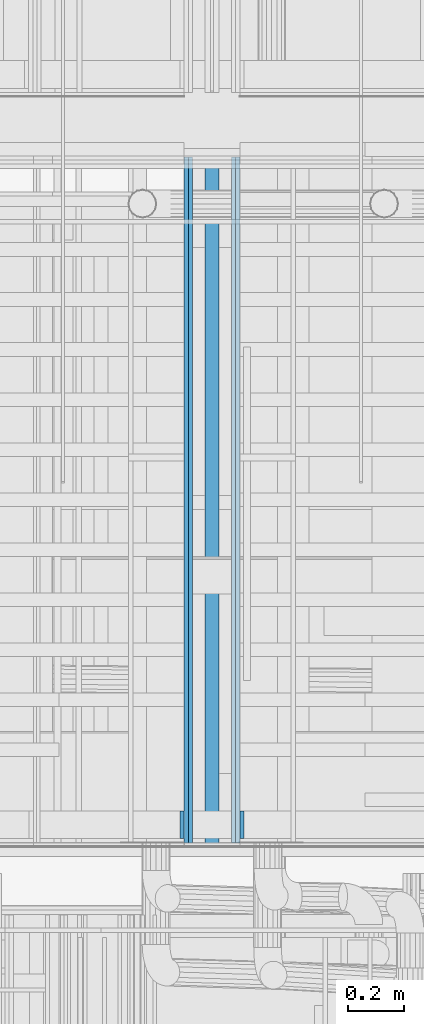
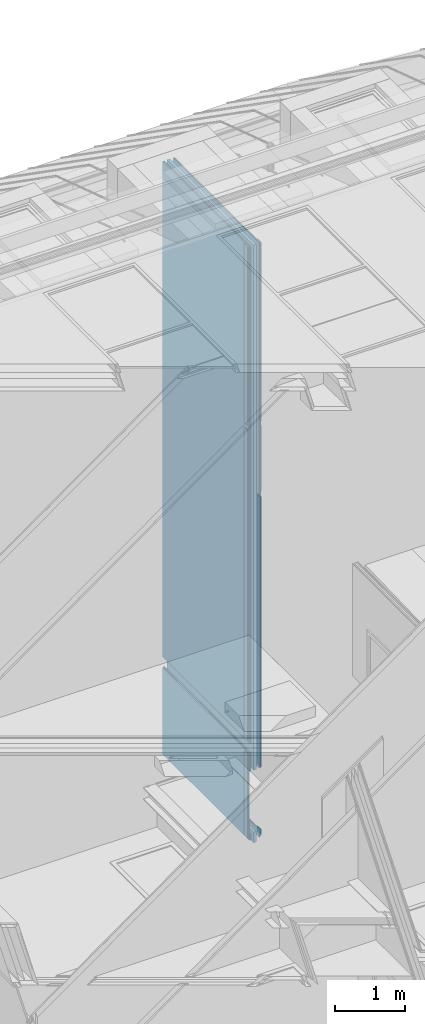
# One storey, part 147 of 583: 14 building element parts, 1 opening, 1 element without a shape of its own.
"""IFC2X3 building model written with IfcOpenShell, lengths in metres."""

from ifc_helpers import new_model, entity, si_unit, converted_unit, derived_unit, money_unit, direction, frame, frame_2d, origin_with_axes, place, context, subcontext, project, spatial, polyline, rectangle, outline, extrude, material, type_object, element, aggregate, save


model = new_model("IFC2X3")

# Units and contexts
model_context = context("Model", 3, precision=1e-05, world=origin_with_axes(), true_north=direction((0.0, 1.0)))
body_context = subcontext(model_context, "Body", "Model", "MODEL_VIEW", scale=1.0)
ifc_project = project(units=[si_unit("LENGTHUNIT", "METRE"), si_unit("AREAUNIT", "SQUARE_METRE"), si_unit("VOLUMEUNIT", "CUBIC_METRE"), si_unit("ABSORBEDDOSEUNIT", "GRAY"), si_unit("AMOUNTOFSUBSTANCEUNIT", "MOLE"), si_unit("DOSEEQUIVALENTUNIT", "SIEVERT"), si_unit("ELECTRICCAPACITANCEUNIT", "FARAD"), si_unit("ELECTRICCHARGEUNIT", "COULOMB"), si_unit("ELECTRICCONDUCTANCEUNIT", "SIEMENS"), si_unit("ELECTRICCURRENTUNIT", "AMPERE"), si_unit("ELECTRICRESISTANCEUNIT", "OHM"), si_unit("ELECTRICVOLTAGEUNIT", "VOLT"), si_unit("ENERGYUNIT", "JOULE"), si_unit("FORCEUNIT", "NEWTON"), si_unit("FREQUENCYUNIT", "HERTZ"), si_unit("ILLUMINANCEUNIT", "LUX"), si_unit("INDUCTANCEUNIT", "HENRY"), si_unit("LUMINOUSFLUXUNIT", "LUMEN"), si_unit("LUMINOUSINTENSITYUNIT", "CANDELA"), si_unit("MAGNETICFLUXDENSITYUNIT", "TESLA"), si_unit("MAGNETICFLUXUNIT", "WEBER"), si_unit("MASSUNIT", "GRAM"), converted_unit("PLANEANGLEUNIT", "degree", entity("IfcReal", 0.0174532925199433), si_unit("PLANEANGLEUNIT", "RADIAN"), dimensions=[0, 0, 0, 0, 0, 0, 0]), si_unit("POWERUNIT", "WATT"), si_unit("PRESSUREUNIT", "PASCAL"), si_unit("RADIOACTIVITYUNIT", "BECQUEREL"), si_unit("SOLIDANGLEUNIT", "STERADIAN"), si_unit("THERMODYNAMICTEMPERATUREUNIT", "KELVIN"), si_unit("TIMEUNIT", "SECOND"), derived_unit("ACCELERATIONUNIT", [(si_unit("LENGTHUNIT", "METRE"), 1), (si_unit("TIMEUNIT", "SECOND"), -2)]), derived_unit("ANGULARVELOCITYUNIT", [(converted_unit("PLANEANGLEUNIT", "degree", entity("IfcReal", 0.0174532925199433), si_unit("PLANEANGLEUNIT", "RADIAN"), dimensions=[0, 0, 0, 0, 0, 0, 0]), 1), (si_unit("TIMEUNIT", "SECOND"), -1)]), derived_unit("CURVATUREUNIT", [(converted_unit("PLANEANGLEUNIT", "degree", entity("IfcReal", 0.0174532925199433), si_unit("PLANEANGLEUNIT", "RADIAN"), dimensions=[0, 0, 0, 0, 0, 0, 0]), 1), (si_unit("LENGTHUNIT", "METRE"), -1)]), derived_unit("DYNAMICVISCOSITYUNIT", [(si_unit("PRESSUREUNIT", "PASCAL"), 1), (si_unit("TIMEUNIT", "SECOND"), 1)]), derived_unit("HEATFLUXDENSITYUNIT", [(si_unit("POWERUNIT", "WATT"), 1), (si_unit("LENGTHUNIT", "METRE"), -2)]), derived_unit("HEATINGVALUEUNIT", [(si_unit("ENERGYUNIT", "JOULE"), 1), (si_unit("MASSUNIT", "GRAM"), -1)]), derived_unit("INTEGERCOUNTRATEUNIT", [(si_unit("TIMEUNIT", "SECOND"), -1)]), derived_unit("IONCONCENTRATIONUNIT", [(si_unit("MASSUNIT", "GRAM"), 1), (si_unit("VOLUMEUNIT", "CUBIC_METRE"), -1)]), derived_unit("ISOTHERMALMOISTURECAPACITYUNIT", [(si_unit("VOLUMEUNIT", "CUBIC_METRE"), 1), (si_unit("MASSUNIT", "GRAM"), -1)]), derived_unit("KINEMATICVISCOSITYUNIT", [(si_unit("AREAUNIT", "SQUARE_METRE"), 1), (si_unit("TIMEUNIT", "SECOND"), -1)]), derived_unit("LINEARFORCEUNIT", [(si_unit("FORCEUNIT", "NEWTON"), 1), (si_unit("LENGTHUNIT", "METRE"), -1)]), derived_unit("LINEARMOMENTUNIT", [(si_unit("FORCEUNIT", "NEWTON"), 1), (si_unit("LENGTHUNIT", "METRE"), -1)]), derived_unit("LINEARSTIFFNESSUNIT", [(si_unit("FORCEUNIT", "NEWTON"), 1), (si_unit("LENGTHUNIT", "METRE"), -1)]), derived_unit("LINEARVELOCITYUNIT", [(si_unit("LENGTHUNIT", "METRE"), 1), (si_unit("TIMEUNIT", "SECOND"), -1)]), derived_unit("LUMINOUSINTENSITYDISTRIBUTIONUNIT", [(si_unit("LUMINOUSINTENSITYUNIT", "CANDELA"), 1), (si_unit("LUMINOUSFLUXUNIT", "LUMEN"), -1)]), derived_unit("MASSDENSITYUNIT", [(si_unit("MASSUNIT", "GRAM"), 1), (si_unit("VOLUMEUNIT", "CUBIC_METRE"), -1)]), derived_unit("MASSFLOWRATEUNIT", [(si_unit("MASSUNIT", "GRAM"), 1), (si_unit("TIMEUNIT", "SECOND"), -1)]), derived_unit("MASSPERLENGTHUNIT", [(si_unit("MASSUNIT", "GRAM"), 1), (si_unit("LENGTHUNIT", "METRE"), -1)]), derived_unit("MODULUSOFELASTICITYUNIT", [(si_unit("FORCEUNIT", "NEWTON"), 1), (si_unit("AREAUNIT", "SQUARE_METRE"), -1)]), derived_unit("MODULUSOFLINEARSUBGRADEREACTIONUNIT", [(si_unit("FORCEUNIT", "NEWTON"), 1), (si_unit("LENGTHUNIT", "METRE"), -2)]), derived_unit("MODULUSOFROTATIONALSUBGRADEREACTIONUNIT", [(si_unit("FORCEUNIT", "NEWTON"), 1), (si_unit("LENGTHUNIT", "METRE"), 1)]), derived_unit("MODULUSOFSUBGRADEREACTIONUNIT", [(si_unit("FORCEUNIT", "NEWTON"), 1), (si_unit("VOLUMEUNIT", "CUBIC_METRE"), -1)]), derived_unit("MOISTUREDIFFUSIVITYUNIT", [(si_unit("VOLUMEUNIT", "CUBIC_METRE"), 1), (si_unit("TIMEUNIT", "SECOND"), -1)]), derived_unit("MOLECULARWEIGHTUNIT", [(si_unit("MASSUNIT", "GRAM"), 1), (si_unit("AMOUNTOFSUBSTANCEUNIT", "MOLE"), -1)]), derived_unit("PLANARFORCEUNIT", [(si_unit("FORCEUNIT", "NEWTON"), 1), (si_unit("LENGTHUNIT", "METRE"), -2)]), derived_unit("ROTATIONALFREQUENCYUNIT", [(si_unit("TIMEUNIT", "SECOND"), -1)]), derived_unit("ROTATIONALMASSUNIT", [(si_unit("MASSUNIT", "GRAM"), 1), (si_unit("LENGTHUNIT", "METRE"), 2)]), derived_unit("ROTATIONALSTIFFNESSUNIT", [(si_unit("FORCEUNIT", "NEWTON"), 1), (si_unit("LENGTHUNIT", "METRE"), 1), (converted_unit("PLANEANGLEUNIT", "degree", entity("IfcReal", 0.0174532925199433), si_unit("PLANEANGLEUNIT", "RADIAN"), dimensions=[0, 0, 0, 0, 0, 0, 0]), -1)]), derived_unit("SECTIONAREAINTEGRALUNIT", [(si_unit("LENGTHUNIT", "METRE"), 5)]), derived_unit("SECTIONMODULUSUNIT", [(si_unit("LENGTHUNIT", "METRE"), 3)]), derived_unit("SHEARMODULUSUNIT", [(si_unit("FORCEUNIT", "NEWTON"), 1), (si_unit("AREAUNIT", "SQUARE_METRE"), -1)]), derived_unit("SOUNDPOWERUNIT", [(si_unit("ENERGYUNIT", "JOULE"), 1), (si_unit("TIMEUNIT", "SECOND"), -1)]), derived_unit("SPECIFICHEATCAPACITYUNIT", [(si_unit("FORCEUNIT", "NEWTON"), 1), (si_unit("MASSUNIT", "GRAM"), -1), (si_unit("THERMODYNAMICTEMPERATUREUNIT", "KELVIN"), -1)]), derived_unit("TEMPERATUREGRADIENTUNIT", [(si_unit("THERMODYNAMICTEMPERATUREUNIT", "KELVIN"), 1), (si_unit("LENGTHUNIT", "METRE"), -1)]), derived_unit("THERMALADMITTANCEUNIT", [(si_unit("POWERUNIT", "WATT"), 1), (si_unit("AREAUNIT", "SQUARE_METRE"), -1), (si_unit("THERMODYNAMICTEMPERATUREUNIT", "KELVIN"), -1)]), derived_unit("THERMALCONDUCTANCEUNIT", [(si_unit("POWERUNIT", "WATT"), 1), (si_unit("LENGTHUNIT", "METRE"), -1), (si_unit("THERMODYNAMICTEMPERATUREUNIT", "KELVIN"), -1)]), derived_unit("THERMALEXPANSIONCOEFFICIENTUNIT", [(si_unit("THERMODYNAMICTEMPERATUREUNIT", "KELVIN"), -1)]), derived_unit("THERMALRESISTANCEUNIT", [(si_unit("AREAUNIT", "SQUARE_METRE"), 1), (si_unit("POWERUNIT", "WATT"), -1)]), derived_unit("THERMALTRANSMITTANCEUNIT", [(si_unit("POWERUNIT", "WATT"), 1), (si_unit("AREAUNIT", "SQUARE_METRE"), -1), (si_unit("THERMODYNAMICTEMPERATUREUNIT", "KELVIN"), -1)]), derived_unit("TORQUEUNIT", [(si_unit("FORCEUNIT", "NEWTON"), 1), (si_unit("LENGTHUNIT", "METRE"), 1)]), derived_unit("VAPORPERMEABILITYUNIT", [(si_unit("MASSUNIT", "GRAM"), 1), (si_unit("TIMEUNIT", "SECOND"), -1)]), derived_unit("VOLUMETRICFLOWRATEUNIT", [(si_unit("VOLUMEUNIT", "CUBIC_METRE"), 1), (si_unit("TIMEUNIT", "SECOND"), -1)]), derived_unit("WARPINGCONSTANTUNIT", [(si_unit("LENGTHUNIT", "METRE"), 6)]), derived_unit("WARPINGMOMENTUNIT", [(si_unit("FORCEUNIT", "NEWTON"), 1), (si_unit("LENGTHUNIT", "METRE"), 2)]), money_unit("GBP")], contexts=[model_context])

# Site, building, storey
site_placement = place(None, origin_with_axes())
site = spatial("IfcSite", under=ifc_project, at=site_placement, Name="Site", CompositionType="ELEMENT")
building_placement = place(site_placement, origin_with_axes())
building = spatial("IfcBuilding", under=site, at=building_placement, Name="Building01", CompositionType="ELEMENT")
storey_placement = place(building_placement, frame((0.0, 0.0, 20.78), z_axis=(0.0, 0.0, 1.0), x_axis=(1.0, 0.0, 0.0)))
storey = spatial("IfcBuildingStorey", under=building, at=storey_placement, Name="RL", CompositionType="ELEMENT", Elevation=20.78)

# Wall, opening, building element parts
wall_type = type_object("IfcWallType", Name="SHE_A-Walls_Type01d_Partywall_200mm_twin", PredefinedType="NOTDEFINED")
wall_placement = place(storey_placement, frame((7.474915, 14.98, 5.600061), z_axis=(0.0, 1.0, 0.0), x_axis=(0.0, 0.0, -1.0)))
wall = element("IfcWall", 1, at=wall_placement, inside=storey, type_object=wall_type, Name="1D", ObjectType="SHE_A-Walls_Type01d_Partywall_200mm_twin")
opening_placement = place(wall_placement, frame((9.149621, -0.075, 0.0), z_axis=(0.0, 0.0, 1.0), x_axis=(1.0, 0.0, 0.0)))
element("IfcOpeningElement", 2, at=opening_placement, cuts=wall, Name="Opening", ObjectType="Opening", context=body_context, shape_type="SweptSolid", body=[
    extrude(rectangle(XDim=1.084, YDim=2.142, at=frame_2d((0.542, 1.071), x_axis=(-1.0, 0.0))), frame((0.0, 0.1875, 0.0), z_axis=(0.0, -1.0, 0.0), x_axis=(1.0, 0.0, 0.0)), (0.0, 0.0, 1.0), 0.375),
])
ifc_material_1 = material(Name="A_BSUK_Insulation")
placement = place(wall_placement, origin_with_axes())
building_element_part_1 = element("IfcBuildingElementPart", 3, at=placement, material=ifc_material_1, Name="1", context=body_context, shape_type="SweptSolid", body=[
    extrude(rectangle(XDim=10.416621, YDim=0.05, at=frame_2d((5.20831, 0.025), x_axis=(-1.0, 0.0))), origin_with_axes(), (0.0, 0.0, 1.0), 2.468),
])
ifc_material_2 = material(Name="A_BSUK_Walls_Timber")
building_element_part_2 = element("IfcBuildingElementPart", 4, at=placement, material=ifc_material_2, Name="2", context=body_context, shape_type="SweptSolid", body=[
    extrude(rectangle(XDim=3.121239, YDim=0.015, at=frame_2d((1.56062, 0.1325), x_axis=(-1.0, 0.0))), frame((0.0, 0.0, 0.015), z_axis=(0.0, 0.0, 1.0), x_axis=(1.0, 0.0, 0.0)), (0.0, 0.0, 1.0), 0.1),
])
ifc_material_3 = material(Name="A_BSUK_WallInternal_Finishes_Plasterboard")
building_element_part_3 = element("IfcBuildingElementPart", 5, at=placement, material=ifc_material_3, Name="3", context=body_context, shape_type="SweptSolid", body=[
    extrude(rectangle(XDim=8.641621, YDim=0.015, at=frame_2d((4.32081, 0.1175), x_axis=(-1.0, 0.0))), origin_with_axes(), (0.0, 0.0, 1.0), 2.468),
])
building_element_part_4 = element("IfcBuildingElementPart", 6, at=placement, material=ifc_material_3, Name="4", context=body_context, shape_type="SweptSolid", body=[
    extrude(rectangle(XDim=8.656621, YDim=0.015, at=frame_2d((4.32831, 0.1025), x_axis=(-1.0, 0.0))), origin_with_axes(), (0.0, 0.0, 1.0), 2.468),
])
building_element_part_5 = element("IfcBuildingElementPart", 7, at=placement, material=ifc_material_3, Name="5", context=body_context, shape_type="SweptSolid", body=[
    extrude(rectangle(XDim=10.356621, YDim=0.015, at=frame_2d((5.17831, -0.0525), x_axis=(-1.0, 0.0))), origin_with_axes(), (0.0, 0.0, 1.0), 2.468),
])
building_element_part_6 = element("IfcBuildingElementPart", 8, at=placement, material=ifc_material_3, Name="6", context=body_context, shape_type="SweptSolid", body=[
    extrude(rectangle(XDim=10.341621, YDim=0.015, at=frame_2d((5.17081, -0.0675), x_axis=(-1.0, 0.0))), origin_with_axes(), (0.0, 0.0, 1.0), 2.468),
])
building_element_part_7 = element("IfcBuildingElementPart", 9, at=placement, material=ifc_material_2, Name="7", context=body_context, shape_type="SweptSolid", body=[
    extrude(rectangle(XDim=3.121239, YDim=0.015, at=frame_2d((1.56062, -0.0825), x_axis=(-1.0, 0.0))), frame((0.0, 0.0, 0.015), z_axis=(0.0, 0.0, 1.0), x_axis=(1.0, 0.0, 0.0)), (0.0, 0.0, 1.0), 0.1),
])
building_element_part_8 = element("IfcBuildingElementPart", 10, at=placement, material=ifc_material_2, Name="8", context=body_context, shape_type="SweptSolid", body=[
    extrude(outline(polyline([(10.326621, 0.14), (8.841621, 0.14), (8.841621, 0.125), (10.341621, 0.125), (10.326621, 0.14)])), frame((0.0, 0.0, 0.015), z_axis=(0.0, 0.0, 1.0), x_axis=(1.0, 0.0, 0.0)), (0.0, 0.0, 1.0), 0.1),
])
building_element_part_9 = element("IfcBuildingElementPart", 11, at=placement, material=ifc_material_3, Name="9", context=body_context, shape_type="SweptSolid", body=[
    extrude(rectangle(XDim=1.515, YDim=0.015, at=frame_2d((9.584121, 0.1175), x_axis=(-1.0, 0.0))), origin_with_axes(), (0.0, 0.0, 1.0), 2.468),
])
building_element_part_10 = element("IfcBuildingElementPart", 12, at=placement, material=ifc_material_3, Name="10", context=body_context, shape_type="SweptSolid", body=[
    extrude(rectangle(XDim=1.545, YDim=0.015, at=frame_2d((9.584121, 0.1025), x_axis=(-1.0, 0.0))), origin_with_axes(), (0.0, 0.0, 1.0), 2.468),
])
building_element_part_11 = element("IfcBuildingElementPart", 13, at=placement, material=ifc_material_2, Name="11", context=body_context, shape_type="SweptSolid", body=[
    extrude(rectangle(XDim=1.143846, YDim=0.015, at=frame_2d((3.773162, -0.0825), x_axis=(-1.0, 0.0))), frame((0.0, 0.0, 0.015), z_axis=(0.0, 0.0, 1.0), x_axis=(1.0, 0.0, 0.0)), (0.0, 0.0, 1.0), 0.1),
])
building_element_part_12 = element("IfcBuildingElementPart", 14, at=placement, material=ifc_material_2, Name="12", context=body_context, shape_type="SweptSolid", body=[
    extrude(rectangle(XDim=5.886536, YDim=0.015, at=frame_2d((7.383353, -0.0825), x_axis=(-1.0, 0.0))), frame((0.0, 0.0, 0.015), z_axis=(0.0, 0.0, 1.0), x_axis=(1.0, 0.0, 0.0)), (0.0, 0.0, 1.0), 0.1),
])
building_element_part_13 = element("IfcBuildingElementPart", 15, at=placement, material=ifc_material_2, Name="13", context=body_context, shape_type="SweptSolid", body=[
    extrude(rectangle(XDim=5.425382, YDim=0.015, at=frame_2d((5.91393, 0.1325), x_axis=(-1.0, 0.0))), frame((0.0, 0.0, 0.015), z_axis=(0.0, 0.0, 1.0), x_axis=(1.0, 0.0, 0.0)), (0.0, 0.0, 1.0), 0.1),
])
building_element_part_14 = element("IfcBuildingElementPart", 16, at=placement, material=ifc_material_2, Name="14", context=body_context, shape_type="SweptSolid", body=[
    extrude(rectangle(XDim=5.886536, YDim=0.015, at=frame_2d((7.383353, -0.0825), x_axis=(-1.0, 0.0))), frame((0.0, 0.0, 0.015), z_axis=(0.0, 0.0, 1.0), x_axis=(1.0, 0.0, 0.0)), (0.0, 0.0, 1.0), 0.1),
])
aggregate(wall, [building_element_part_1, building_element_part_2, building_element_part_3, building_element_part_4, building_element_part_5, building_element_part_6, building_element_part_7, building_element_part_8, building_element_part_9, building_element_part_10, building_element_part_11, building_element_part_12, building_element_part_13, building_element_part_14])

save(model, "model.ifc")
